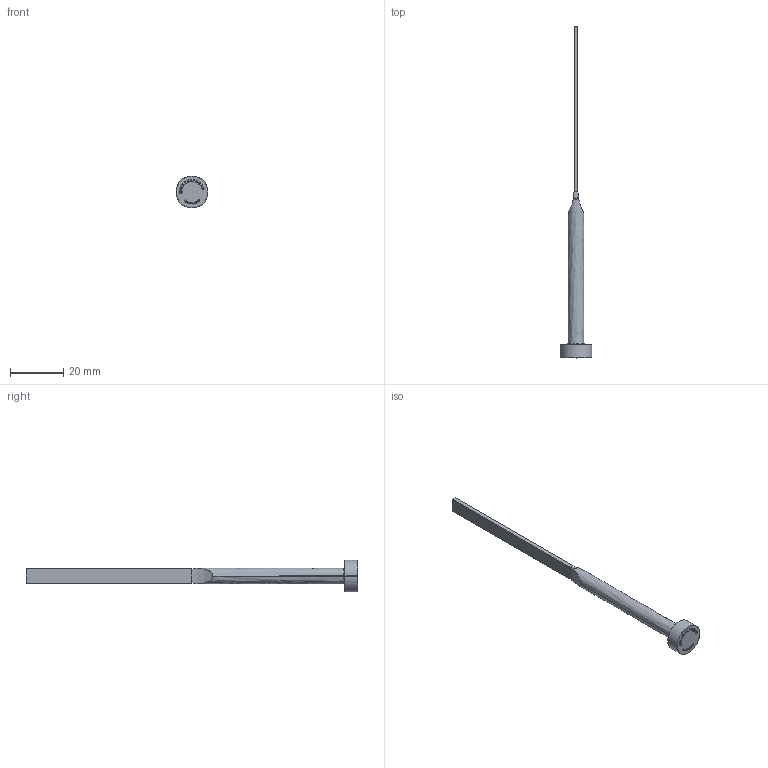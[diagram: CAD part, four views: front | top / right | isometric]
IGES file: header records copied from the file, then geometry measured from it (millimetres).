
Start section: SolidWorks IGES file using analytic representation for surfaces
Global section: file name: D:\Cleonir_particular\Matripeças\Lâmina Extratoras\LE1,505,5125.IGS; native system: SolidWorks 2013; preprocessor: SolidWorks 2013; author: Cleonir; date: 130305.142433; units: millimetre
Bounding box: 12 x 125 x 12 mm (x, y, z)
Surface area: 2353.9 mm2 (no closed solid volume)
Topology: 0 solids, 0 shells, 320 faces, 2982 edges, 2982 vertices
Faces by surface type: bspline 301, revolution 19
